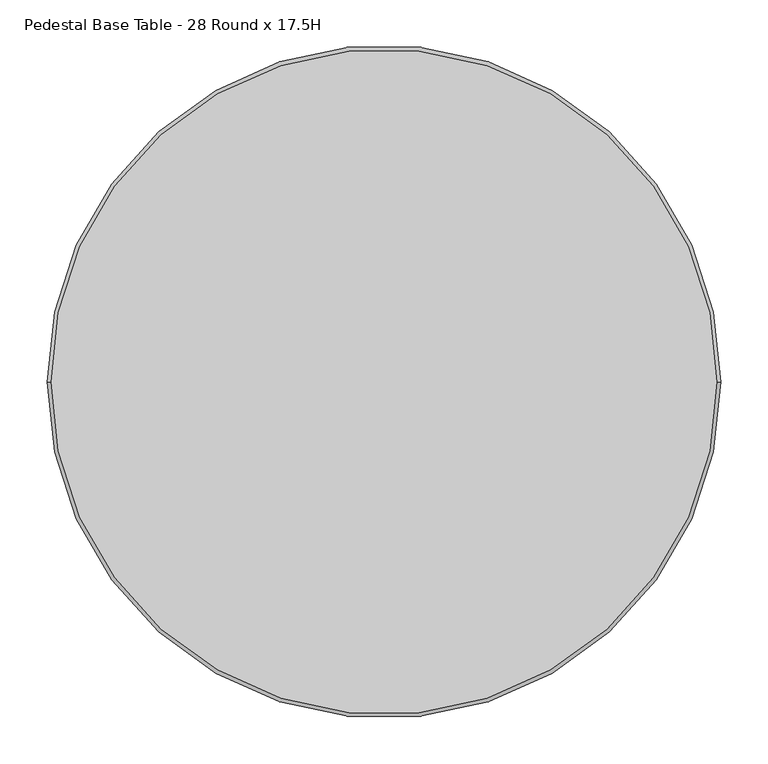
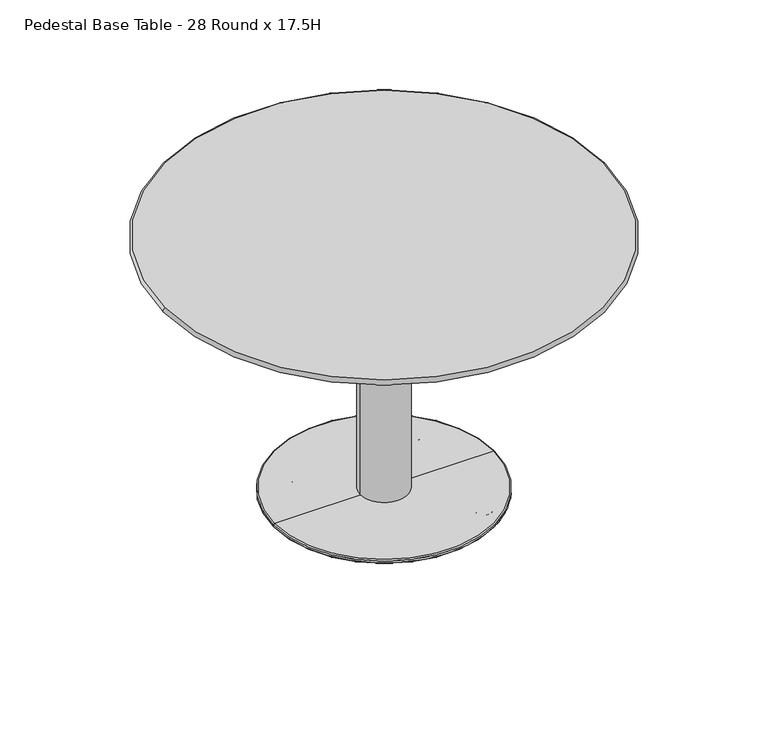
"""IFC4 building model written with IfcOpenShell, lengths in millimetres: furniture geometry, Integra - Coastal Collection - Coastal Metal Tables - Freestanding Table : Pedestal Base Table - 28 Round x 17.5H."""

from ifc_helpers import new_model, si_unit, point, frame, origin, origin_2d, place, context, project, spatial, circle_curve, ellipse_curve, trimmed, segment, composite_curve, outline, extrude, source, transform, mapped, element, save
from ifc_brep_helpers import plane_surface, cylinder_surface, revolved_surface, advanced_brep


def pedestal_base_table_28_round_x_17_5h_999123bd(model_context):
    return source(origin(), model_context, "Body", "SolidModel", [
        advanced_brep(
        [(177.8, 0.0, 14.2991915), (-177.8, 0.0, 14.2991915), (-176.2125, 0.0, 15.8866915), (176.2125, 0.0, 15.8866915), (177.8, 0.0, 11.1241915), (-177.8, 0.0, 11.1241915), (176.2125, 0.0, 9.5366915), (-176.2125, 0.0, 9.5366915), (0.0, 0.0, 9.5366915), (0.0, 0.0, 15.8866915)],
        [
            (0, 1, circle_curve(frame((0.0, 0.0, 14.2991915), z_axis=(0.0, 0.0, 1.0), x_axis=(-1.0, 0.0, 0.0)), 177.8)),
            (1, 2, circle_curve(frame((-176.2125, 0.0, 14.2991915), z_axis=(0.0, 1.0, 0.0), x_axis=(1.0, 0.0, 0.0)), 1.5875)),
            (2, 3, circle_curve(frame((0.0, 0.0, 15.8866915), z_axis=(0.0, 0.0, -1.0), x_axis=(-1.0, 0.0, 0.0)), 176.2125)),
            (3, 0, circle_curve(frame((176.2125, 0.0, 14.2991915), z_axis=(0.0, 1.0, 0.0), x_axis=(-1.0, 0.0, 0.0)), 1.5875)),
            (1, 0, circle_curve(frame((0.0, 0.0, 14.2991915), z_axis=(0.0, 0.0, 1.0), x_axis=(-1.0, 0.0, 0.0)), 177.8)),
            (3, 2, circle_curve(frame((0.0, 0.0, 15.8866915), z_axis=(0.0, 0.0, -1.0), x_axis=(-1.0, 0.0, 0.0)), 176.2125)),
            (4, 5, circle_curve(frame((0.0, 0.0, 11.1241915), z_axis=(0.0, 0.0, 1.0), x_axis=(-1.0, 0.0, 0.0)), 177.8)),
            (5, 1),
            (0, 4),
            (5, 4, circle_curve(frame((0.0, 0.0, 11.1241915), z_axis=(0.0, 0.0, 1.0), x_axis=(-1.0, 0.0, 0.0)), 177.8)),
            (6, 7, circle_curve(frame((0.0, 0.0, 9.5366915), z_axis=(0.0, 0.0, 1.0), x_axis=(-1.0, 0.0, 0.0)), 176.2125)),
            (7, 5, circle_curve(frame((-176.2125, 0.0, 11.1241915), z_axis=(0.0, 1.0, 0.0), x_axis=(1.0, 0.0, 0.0)), 1.5875)),
            (4, 6, circle_curve(frame((176.2125, 0.0, 11.1241915), z_axis=(0.0, 1.0, 0.0), x_axis=(-1.0, 0.0, 0.0)), 1.5875)),
            (7, 6, circle_curve(frame((0.0, 0.0, 9.5366915), z_axis=(0.0, 0.0, 1.0), x_axis=(-1.0, 0.0, 0.0)), 176.2125)),
            (8, 7),
            (6, 8),
            (2, 9),
            (9, 3),
        ],
        [
            revolved_surface(trimmed(ellipse_curve(frame((-176.2125, 0.0, 14.2991915), z_axis=(0.0, -1.0, 0.0), x_axis=(1.0, 0.0, 0.0)), 1.5875, 1.5875), [point((-176.2125, 0.0, 15.8866915))], [point((-177.8, 0.0, 14.2991915))], True, "CARTESIAN"), (0.0, 0.0, 15.8866915), (0.0, 0.0, -1.0)),
            cylinder_surface(frame((0.0, 0.0, 15.8866915), z_axis=(0.0, 0.0, -1.0), x_axis=(-1.0, 0.0, 0.0)), 177.8),
            revolved_surface(trimmed(ellipse_curve(frame((-176.2125, 0.0, 11.1241915), z_axis=(0.0, -1.0, 0.0), x_axis=(1.0, 0.0, 0.0)), 1.5875, 1.5875), [point((-177.8, 0.0, 11.1241915))], [point((-176.2125, 0.0, 9.5366915))], True, "CARTESIAN"), (0.0, 0.0, 15.8866915), (0.0, 0.0, -1.0)),
            plane_surface(frame((0.0, 0.0, 9.5366915), z_axis=(0.0, 0.0, -1.0), x_axis=(-1.0, 0.0, 0.0))),
            plane_surface(frame((0.0, 0.0, 15.8866915), z_axis=(0.0, 0.0, 1.0), x_axis=(-1.0, 0.0, 0.0))),
        ],
        [
            (0, [[1, 2, 3, 4]]),
            (0, [[5, -4, 6, -2]]),
            (1, [[7, 8, -1, 9]]),
            (1, [[10, -9, -5, -8]]),
            (2, [[11, 12, -7, 13]]),
            (2, [[14, -13, -10, -12]]),
            (3, [[15, -11, 16]]),
            (3, [[-16, -14, -15]]),
            (4, [[-3, 17, 18]]),
            (4, [[-6, -18, -17]]),
        ],
    ),
        extrude(outline(composite_curve([segment(trimmed(circle_curve(origin_2d(), 38.1), [point((-38.1, 0.0))], [point((38.1, 0.0))], False, "CARTESIAN"), True, "CONTINUOUS"), segment(trimmed(circle_curve(origin_2d(), 38.1), [point((38.1, 0.0))], [point((-38.1, 0.0))], False, "CARTESIAN"), True, "CONTINUOUS")], self_intersect=False)), frame((0.0, 0.0, 15.8866915), z_axis=(0.0, 0.0, 1.0), x_axis=(1.0, 0.0, 0.0)), (0.0, 0.0, 1.0), 409.5633025),
        advanced_brep(
        [(-330.184015, 0.0, 431.7999939), (330.184015, 0.0, 431.7999939), (351.6380192, 0.0, 444.5), (-351.6380192, 0.0, 444.5), (353.3187402, 0.0, 436.9501969), (-353.3187402, 0.0, 436.9501969)],
        [
            (0, 1, circle_curve(frame((0.0, 0.0, 431.7999939), z_axis=(0.0, 0.0, -1.0), x_axis=(1.0, 0.0, 0.0)), 330.184015)),
            (1, 0, circle_curve(frame((0.0, 0.0, 431.7999939), z_axis=(0.0, 0.0, -1.0), x_axis=(-1.0, 0.0, 0.0)), 330.184015)),
            (2, 3, circle_curve(frame((0.0, 0.0, 444.5), z_axis=(0.0, 0.0, 1.0), x_axis=(1.0, 0.0, 0.0)), 351.6380192)),
            (3, 2, circle_curve(frame((0.0, 0.0, 444.5), z_axis=(0.0, 0.0, 1.0), x_axis=(-1.0, 0.0, 0.0)), 351.6380192)),
            (2, 4, circle_curve(frame((351.6380192, 0.0, 440.5380192), z_axis=(0.0, 1.0, 0.0), x_axis=(-1.0, 0.0, 0.0)), 3.9619808)),
            (4, 5, circle_curve(frame((0.0, 0.0, 436.9501969), z_axis=(0.0, 0.0, 1.0), x_axis=(1.0, 0.0, 0.0)), 353.3187402)),
            (5, 3, circle_curve(frame((-351.6380192, 0.0, 440.5380192), z_axis=(0.0, 1.0, 0.0), x_axis=(1.0, 0.0, 0.0)), 3.9619808)),
            (4, 1, circle_curve(frame((330.184015, 0.0, 486.3357186), z_axis=(0.0, 1.0, 0.0), x_axis=(-1.0, 0.0, 0.0)), 54.5357246)),
            (0, 5, circle_curve(frame((-330.184015, 0.0, 486.3357186), z_axis=(0.0, 1.0, 0.0), x_axis=(1.0, 0.0, 0.0)), 54.5357246)),
            (5, 4, circle_curve(frame((0.0, 0.0, 436.9501969), z_axis=(0.0, 0.0, 1.0), x_axis=(-1.0, 0.0, 0.0)), 353.3187402)),
        ],
        [
            plane_surface(frame((-25.4, 0.0, 431.7999939), z_axis=(0.0, 0.0, -1.0), x_axis=(0.0, 1.0, 0.0))),
            plane_surface(frame((-25.4, 0.0, 444.5), z_axis=(0.0, 0.0, 1.0), x_axis=(0.0, -1.0, 0.0))),
            revolved_surface(trimmed(ellipse_curve(frame((351.6380192, 0.0, 440.5380192), z_axis=(0.0, -1.0, 0.0), x_axis=(-1.0, 0.0, 0.0)), 3.9619808, 3.9619808), [point((353.3187402, 0.0, 436.9501969))], [point((351.6380192, 0.0, 444.5))], True, "CARTESIAN"), (0.0, 0.0, 444.5), (0.0, 0.0, 1.0)),
            revolved_surface(trimmed(ellipse_curve(frame((330.184015, 0.0, 486.3357186), z_axis=(0.0, -1.0, 0.0), x_axis=(-1.0, 0.0, 0.0)), 54.5357246, 54.5357246), [point((330.184015, 0.0, 431.7999939))], [point((353.3187402, 0.0, 436.9501969))], True, "CARTESIAN"), (0.0, 0.0, 444.5), (0.0, 0.0, 1.0)),
            revolved_surface(trimmed(ellipse_curve(frame((-351.6380192, 0.0, 440.5380192), z_axis=(0.0, 1.0, 0.0), x_axis=(1.0, 0.0, 0.0)), 3.9619808, 3.9619808), [point((-353.3187402, 0.0, 436.9501969))], [point((-351.6380192, 0.0, 444.5))], True, "CARTESIAN"), (0.0, 0.0, 444.5), (0.0, 0.0, 1.0)),
            revolved_surface(trimmed(ellipse_curve(frame((-330.184015, 0.0, 486.3357186), z_axis=(0.0, 1.0, 0.0), x_axis=(1.0, 0.0, 0.0)), 54.5357246, 54.5357246), [point((-330.184015, 0.0, 431.7999939))], [point((-353.3187402, 0.0, 436.9501969))], True, "CARTESIAN"), (0.0, 0.0, 444.5), (0.0, 0.0, 1.0)),
        ],
        [
            (0, [[1, 2]]),
            (1, [[3, 4]]),
            (2, [[-3, 5, 6, 7]]),
            (3, [[-6, 8, -1, 9]]),
            (4, [[-5, -4, -7, 10]]),
            (5, [[-8, -10, -9, -2]]),
        ],
    ),
        extrude(outline(composite_curve([segment(trimmed(circle_curve(origin_2d(), 330.2), [point((-330.2, 0.0))], [point((330.2, 0.0))], False, "CARTESIAN"), True, "CONTINUOUS"), segment(trimmed(circle_curve(origin_2d(), 330.2), [point((330.2, 0.0))], [point((-330.2, 0.0))], False, "CARTESIAN"), True, "CONTINUOUS")], self_intersect=False)), frame((0.0, 0.0, 425.4499939), z_axis=(0.0, 0.0, 1.0), x_axis=(1.0, 0.0, 0.0)), (0.0, 0.0, 1.0), 6.35),
        advanced_brep(
        [(-117.2443939, 101.6, 9.5239742), (-85.9556061, 101.6, 9.5239742), (-101.6, 101.6, 9.5239742), (-107.7193939, 101.6, -0.0010258), (-95.4806061, 101.6, -0.0010258), (-101.6, 101.6, -0.0010258)],
        [
            (0, 1, circle_curve(frame((-101.6, 101.6, 9.5239742), z_axis=(0.0, 0.0, 1.0), x_axis=(1.0, 0.0, 0.0)), 15.6443939)),
            (1, 2),
            (2, 0),
            (1, 0, circle_curve(frame((-101.6, 101.6, 9.5239742), z_axis=(0.0, 0.0, 1.0), x_axis=(1.0, 0.0, 0.0)), 15.6443939)),
            (3, 4, circle_curve(frame((-101.6, 101.6, -0.0010258), z_axis=(0.0, 0.0, 1.0), x_axis=(1.0, 0.0, 0.0)), 6.1193939)),
            (4, 1, circle_curve(frame((-95.4806061, 101.6, 9.5239742), z_axis=(0.0, -1.0, 0.0), x_axis=(1.0, 0.0, 0.0)), 9.525)),
            (0, 3, circle_curve(frame((-107.7193939, 101.6, 9.5239742), z_axis=(0.0, -1.0, 0.0), x_axis=(-1.0, 0.0, 0.0)), 9.525)),
            (4, 3, circle_curve(frame((-101.6, 101.6, -0.0010258), z_axis=(0.0, 0.0, 1.0), x_axis=(1.0, 0.0, 0.0)), 6.1193939)),
            (5, 4),
            (3, 5),
        ],
        [
            plane_surface(frame((-101.6, 101.6, 9.5239742), z_axis=(0.0, 0.0, 1.0), x_axis=(1.0, 0.0, 0.0))),
            revolved_surface(trimmed(ellipse_curve(frame((-95.4806061, 101.6, 9.5239742), z_axis=(0.0, 1.0, 0.0), x_axis=(1.0, 0.0, 0.0)), 9.525, 9.525), [point((-85.9556061, 101.6, 9.5239742))], [point((-95.4806061, 101.6, -0.0010258))], True, "CARTESIAN"), (-101.6, 101.6, -0.0010258), (0.0, 0.0, -1.0)),
            plane_surface(frame((-101.6, 101.6, -0.0010258), z_axis=(0.0, 0.0, -1.0), x_axis=(1.0, 0.0, 0.0))),
        ],
        [
            (0, [[1, 2, 3]]),
            (0, [[4, -3, -2]]),
            (1, [[5, 6, -1, 7]]),
            (1, [[8, -7, -4, -6]]),
            (2, [[9, -5, 10]]),
            (2, [[-10, -8, -9]]),
        ],
    ),
        advanced_brep(
        [(-101.6, -101.6, 9.5239742), (-85.9556061, -101.6, 9.5239742), (-117.2443939, -101.6, 9.5239742), (-95.4806061, -101.6, -0.0010258), (-107.7193939, -101.6, -0.0010258), (-101.6, -101.6, -0.0010258)],
        [
            (0, 1),
            (1, 2, circle_curve(frame((-101.6, -101.6, 9.5239742), z_axis=(0.0, 0.0, 1.0), x_axis=(1.0, 0.0, 0.0)), 15.6443939)),
            (2, 0),
            (2, 1, circle_curve(frame((-101.6, -101.6, 9.5239742), z_axis=(0.0, 0.0, 1.0), x_axis=(1.0, 0.0, 0.0)), 15.6443939)),
            (1, 3, circle_curve(frame((-95.4806061, -101.6, 9.5239742), z_axis=(0.0, 1.0, 0.0), x_axis=(1.0, 0.0, 0.0)), 9.525)),
            (3, 4, circle_curve(frame((-101.6, -101.6, -0.0010258), z_axis=(0.0, 0.0, 1.0), x_axis=(1.0, 0.0, 0.0)), 6.1193939)),
            (4, 2, circle_curve(frame((-107.7193939, -101.6, 9.5239742), z_axis=(0.0, 1.0, 0.0), x_axis=(-1.0, 0.0, 0.0)), 9.525)),
            (4, 3, circle_curve(frame((-101.6, -101.6, -0.0010258), z_axis=(0.0, 0.0, 1.0), x_axis=(1.0, 0.0, 0.0)), 6.1193939)),
            (3, 5),
            (5, 4),
        ],
        [
            plane_surface(frame((-101.6, -101.6, 9.5239742), z_axis=(0.0, 0.0, 1.0), x_axis=(1.0, 0.0, 0.0))),
            revolved_surface(trimmed(ellipse_curve(frame((-95.4806061, -101.6, 9.5239742), z_axis=(0.0, -1.0, 0.0), x_axis=(1.0, 0.0, 0.0)), 9.525, 9.525), [point((-95.4806061, -101.6, -0.0010258))], [point((-85.9556061, -101.6, 9.5239742))], True, "CARTESIAN"), (-101.6, -101.6, -0.0010258), (0.0, 0.0, 1.0)),
            plane_surface(frame((-101.6, -101.6, -0.0010258), z_axis=(0.0, 0.0, -1.0), x_axis=(1.0, 0.0, 0.0))),
        ],
        [
            (0, [[1, 2, 3]]),
            (0, [[-3, 4, -1]]),
            (1, [[-2, 5, 6, 7]]),
            (1, [[-4, -7, 8, -5]]),
            (2, [[-6, 9, 10]]),
            (2, [[-8, -10, -9]]),
        ],
    ),
        advanced_brep(
        [(101.6, 101.6, 9.5239742), (85.9556061, 101.6, 9.5239742), (117.2443939, 101.6, 9.5239742), (95.4806061, 101.6, -0.0010258), (107.7193939, 101.6, -0.0010258), (101.6, 101.6, -0.0010258)],
        [
            (0, 1),
            (1, 2, circle_curve(frame((101.6, 101.6, 9.5239742), z_axis=(0.0, 0.0, 1.0), x_axis=(-1.0, 0.0, 0.0)), 15.6443939)),
            (2, 0),
            (2, 1, circle_curve(frame((101.6, 101.6, 9.5239742), z_axis=(0.0, 0.0, 1.0), x_axis=(-1.0, 0.0, 0.0)), 15.6443939)),
            (1, 3, circle_curve(frame((95.4806061, 101.6, 9.5239742), z_axis=(0.0, -1.0, 0.0), x_axis=(-1.0, 0.0, 0.0)), 9.525)),
            (3, 4, circle_curve(frame((101.6, 101.6, -0.0010258), z_axis=(0.0, 0.0, 1.0), x_axis=(-1.0, 0.0, 0.0)), 6.1193939)),
            (4, 2, circle_curve(frame((107.7193939, 101.6, 9.5239742), z_axis=(0.0, -1.0, 0.0), x_axis=(1.0, 0.0, 0.0)), 9.525)),
            (4, 3, circle_curve(frame((101.6, 101.6, -0.0010258), z_axis=(0.0, 0.0, 1.0), x_axis=(-1.0, 0.0, 0.0)), 6.1193939)),
            (3, 5),
            (5, 4),
        ],
        [
            plane_surface(frame((101.6, 101.6, 9.5239742), z_axis=(0.0, 0.0, 1.0), x_axis=(-1.0, 0.0, 0.0))),
            revolved_surface(trimmed(ellipse_curve(frame((95.4806061, 101.6, 9.5239742), z_axis=(0.0, 1.0, 0.0), x_axis=(-1.0, 0.0, 0.0)), 9.525, 9.525), [point((95.4806061, 101.6, -0.0010258))], [point((85.9556061, 101.6, 9.5239742))], True, "CARTESIAN"), (101.6, 101.6, -0.0010258), (0.0, 0.0, 1.0)),
            plane_surface(frame((101.6, 101.6, -0.0010258), z_axis=(0.0, 0.0, -1.0), x_axis=(-1.0, 0.0, 0.0))),
        ],
        [
            (0, [[1, 2, 3]]),
            (0, [[-3, 4, -1]]),
            (1, [[-2, 5, 6, 7]]),
            (1, [[-4, -7, 8, -5]]),
            (2, [[-6, 9, 10]]),
            (2, [[-8, -10, -9]]),
        ],
    ),
        advanced_brep(
        [(117.2443939, -101.6, 9.5239742), (85.9556061, -101.6, 9.5239742), (101.6, -101.6, 9.5239742), (107.7193939, -101.6, -0.0010258), (95.4806061, -101.6, -0.0010258), (101.6, -101.6, -0.0010258)],
        [
            (0, 1, circle_curve(frame((101.6, -101.6, 9.5239742), z_axis=(0.0, 0.0, 1.0), x_axis=(-1.0, 0.0, 0.0)), 15.6443939)),
            (1, 2),
            (2, 0),
            (1, 0, circle_curve(frame((101.6, -101.6, 9.5239742), z_axis=(0.0, 0.0, 1.0), x_axis=(-1.0, 0.0, 0.0)), 15.6443939)),
            (3, 4, circle_curve(frame((101.6, -101.6, -0.0010258), z_axis=(0.0, 0.0, 1.0), x_axis=(-1.0, 0.0, 0.0)), 6.1193939)),
            (4, 1, circle_curve(frame((95.4806061, -101.6, 9.5239742), z_axis=(0.0, 1.0, 0.0), x_axis=(-1.0, 0.0, 0.0)), 9.525)),
            (0, 3, circle_curve(frame((107.7193939, -101.6, 9.5239742), z_axis=(0.0, 1.0, 0.0), x_axis=(1.0, 0.0, 0.0)), 9.525)),
            (4, 3, circle_curve(frame((101.6, -101.6, -0.0010258), z_axis=(0.0, 0.0, 1.0), x_axis=(-1.0, 0.0, 0.0)), 6.1193939)),
            (5, 4),
            (3, 5),
        ],
        [
            plane_surface(frame((101.6, -101.6, 9.5239742), z_axis=(0.0, 0.0, 1.0), x_axis=(-1.0, 0.0, 0.0))),
            revolved_surface(trimmed(ellipse_curve(frame((95.4806061, -101.6, 9.5239742), z_axis=(0.0, -1.0, 0.0), x_axis=(-1.0, 0.0, 0.0)), 9.525, 9.525), [point((85.9556061, -101.6, 9.5239742))], [point((95.4806061, -101.6, -0.0010258))], True, "CARTESIAN"), (101.6, -101.6, -0.0010258), (0.0, 0.0, -1.0)),
            plane_surface(frame((101.6, -101.6, -0.0010258), z_axis=(0.0, 0.0, -1.0), x_axis=(-1.0, 0.0, 0.0))),
        ],
        [
            (0, [[1, 2, 3]]),
            (0, [[4, -3, -2]]),
            (1, [[5, 6, -1, 7]]),
            (1, [[8, -7, -4, -6]]),
            (2, [[9, -5, 10]]),
            (2, [[-10, -8, -9]]),
        ],
    ),
    ])


if __name__ == "__main__":
    model = new_model("IFC4")
    model_context = context("Model", 3, world=origin())
    ifc_project = project(units=[si_unit("LENGTHUNIT", "METRE", prefix="MILLI")], contexts=[model_context])
    site = spatial("IfcSite", under=ifc_project)
    building = spatial("IfcBuilding", under=site)
    placement = place(None, origin())
    pedestal_base_table_28_round_x_17_5h_shape = pedestal_base_table_28_round_x_17_5h_999123bd(model_context)
    element("IfcFurniture", 1, ObjectType="Integra - Coastal Collection - Coastal Metal Tables - Freestanding Table : Pedestal Base Table - 28 Round x 17.5H", at=placement, inside=building, context=model_context, shape_type="MappedRepresentation", body=[
        mapped(pedestal_base_table_28_round_x_17_5h_shape, transform((0.0, 0.0, 0.0), x_axis=(1.0, 0.0, 0.0), y_axis=(0.0, 1.0, 0.0), z_axis=(0.0, 0.0, 1.0))),
    ])
    save(model, "model.ifc")
